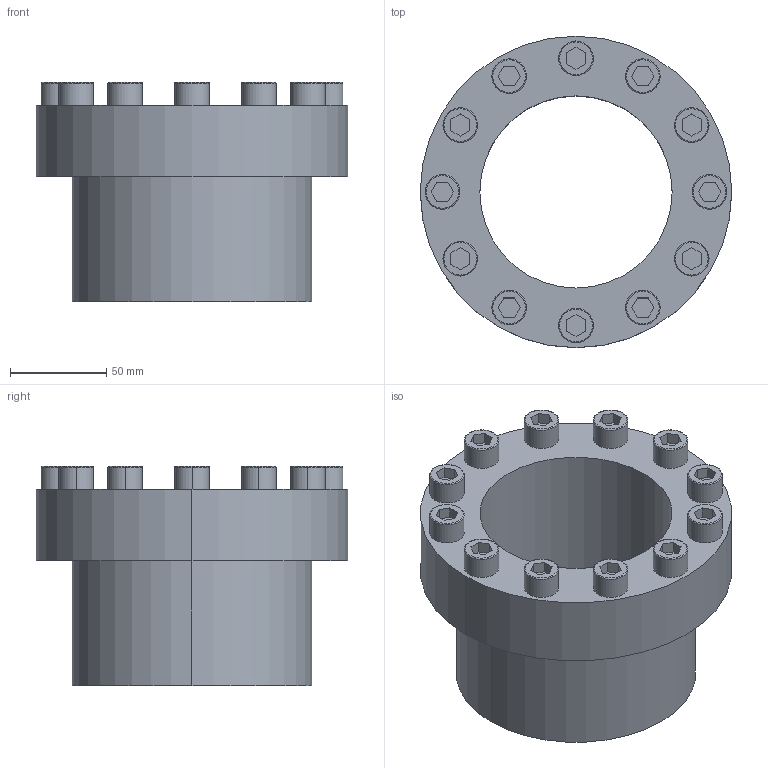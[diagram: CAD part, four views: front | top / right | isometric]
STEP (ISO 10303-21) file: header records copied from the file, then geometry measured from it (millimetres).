
FILE_DESCRIPTION (( 'STEP AP203' ), '1' );
FILE_NAME ('PL-C 100-125.STEP', '2021-10-22T08:47:16', ( '' ), ( '' ), 'SwSTEP 2.0', 'SolidWorks 2018', '' );
FILE_SCHEMA (( 'CONFIG_CONTROL_DESIGN' ));
Length unit declared in the file: millimetre
Products named in the file (1): PL-C 100-125
Bounding box: 162 x 162 x 114 mm (x, y, z)
Volume: 787029.2 mm3; surface area: 112365.8 mm2
Topology: 1 solids, 1 shells, 153 faces, 354 edges, 228 vertices
Faces by surface type: plane 99, cylinder 30, torus 24
Entity records: 4405 total; most frequent: DIRECTION 770, CARTESIAN_POINT 736, ORIENTED_EDGE 708, EDGE_CURVE 354, AXIS2_PLACEMENT_3D 262, LINE 246, VECTOR 246, VERTEX_POINT 228
